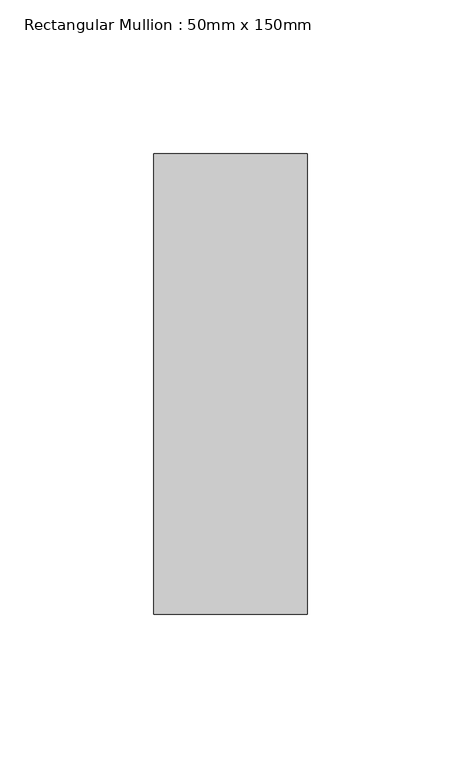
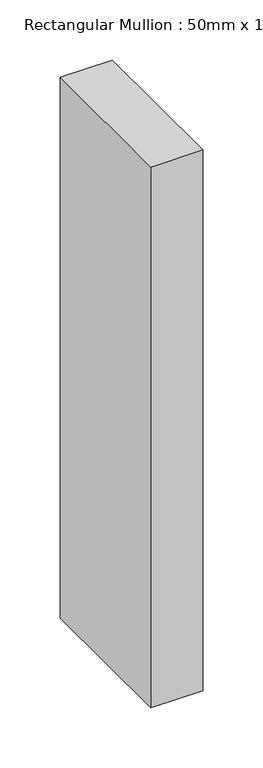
"""IFC4 building model written with IfcOpenShell, lengths in millimetres: member geometry, Rectangular Mullion : 50mm x 150mm."""

from ifc_helpers import new_model, si_unit, frame, origin, place, context, project, spatial, polyline, outline, extrude, source, transform, mapped, element, save


def rectangular_mullion_50mm_x_150mm_b93c35cb(model_context):
    return source(origin(), model_context, "Body", "SweptSolid", [
        extrude(outline(polyline([(25.0, 75.0), (25.0, -75.0), (-25.0, -75.0), (-25.0, 75.0), (25.0, 75.0)])), frame((0.0, 0.0, -547.9584148), z_axis=(0.0, 0.0, 1.0), x_axis=(1.0, 0.0, 0.0)), (0.0, 0.0, 1.0), 547.9584148),
    ])


if __name__ == "__main__":
    model = new_model("IFC4")
    model_context = context("Model", 3, world=origin())
    ifc_project = project(units=[si_unit("LENGTHUNIT", "METRE", prefix="MILLI")], contexts=[model_context])
    site = spatial("IfcSite", under=ifc_project)
    building = spatial("IfcBuilding", under=site)
    placement = place(None, origin())
    rectangular_mullion_50mm_x_150mm_shape = rectangular_mullion_50mm_x_150mm_b93c35cb(model_context)
    element("IfcMember", 1, ObjectType="Rectangular Mullion : 50mm x 150mm", at=placement, inside=building, context=model_context, shape_type="MappedRepresentation", body=[
        mapped(rectangular_mullion_50mm_x_150mm_shape, transform((0.0, 0.0, 0.0), x_axis=(1.0, 0.0, 0.0), y_axis=(0.0, 1.0, 0.0), z_axis=(0.0, 0.0, 1.0))),
    ])
    save(model, "model.ifc")
